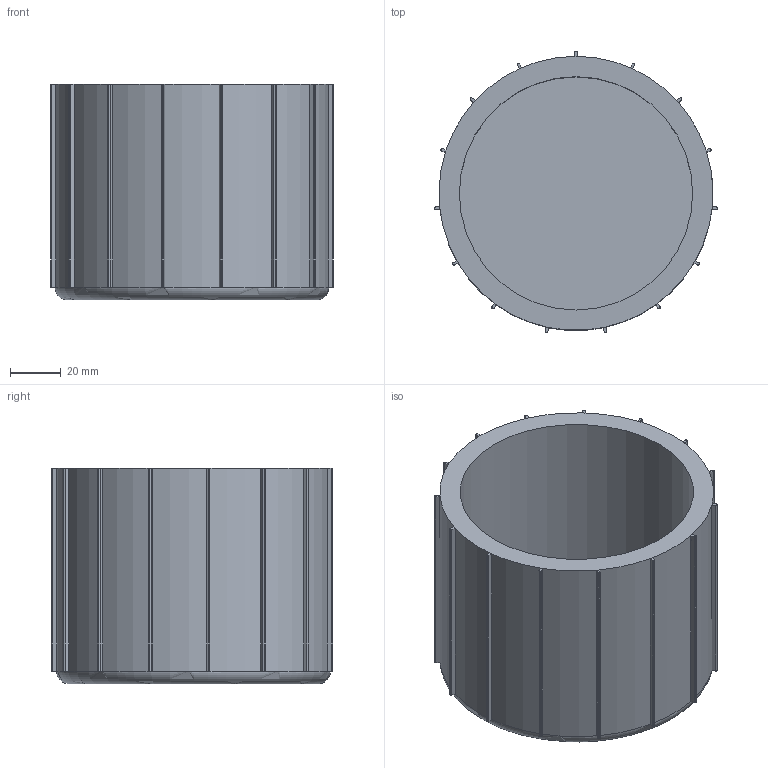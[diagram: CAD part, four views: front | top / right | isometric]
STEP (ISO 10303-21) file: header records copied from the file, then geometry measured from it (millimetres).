
FILE_DESCRIPTION(/* description */ (''),/* implementation_level */ '2;1');
FILE_NAME(/* name */ 'anaechoic end.stp',/* time_stamp */ '2026-07-13T09:11:33+03:00',/* author */ ('USER'),/* organization */ (''),/* preprocessor_version */ 'ST-DEVELOPER v20',/* originating_system */ 'Autodesk Inventor 2025',/* authorisation */ '');
FILE_SCHEMA (('AUTOMOTIVE_DESIGN { 1 0 10303 214 3 1 1 }'));
Length unit declared in the file: millimetre
Products named in the file (1): anaechoic end
Bounding box: 111.41 x 110.81 x 85 mm (x, y, z)
Volume: 267344.1 mm3; surface area: 75523.3 mm2
Topology: 16 solids, 16 shells, 155 faces, 366 edges, 244 vertices
Faces by surface type: plane 108, cylinder 46, torus 1
Full cylindrical faces by diameter (mm): 92 x1
Entity records: 4483 total; most frequent: DIRECTION 773, CARTESIAN_POINT 766, ORIENTED_EDGE 732, EDGE_CURVE 366, LINE 271, VECTOR 271, AXIS2_PLACEMENT_3D 251, VERTEX_POINT 244
